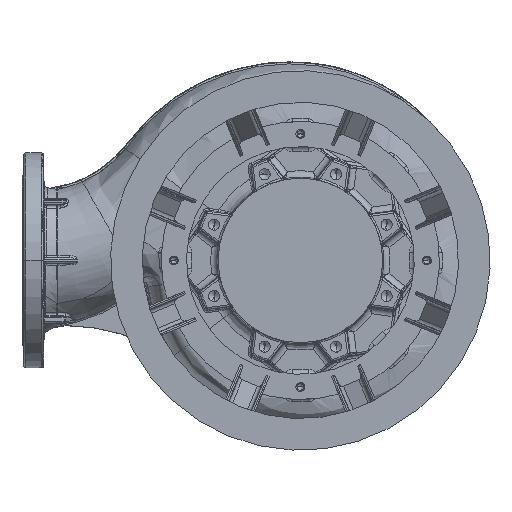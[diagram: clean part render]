
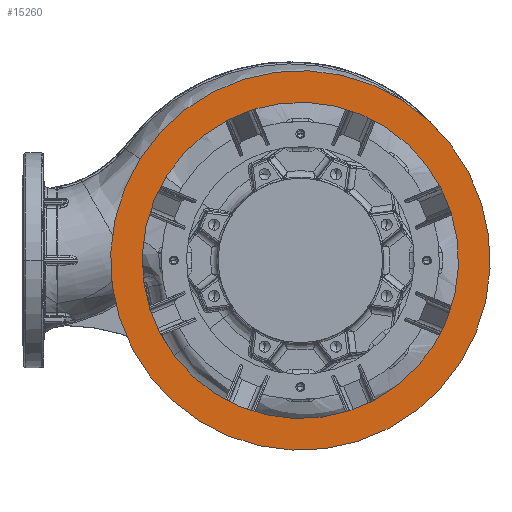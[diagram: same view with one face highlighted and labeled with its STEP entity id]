
A CAD part, front view. The second image highlights one B-rep face of the part: STEP entity #15260.
In plain terms, the highlighted planar face has unit normal (0, -1, 0).
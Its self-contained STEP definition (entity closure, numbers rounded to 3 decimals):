
#1885 = ORIENTED_EDGE ( 'NONE', *, *, #38860, .T. ) ;
#3118 = VERTEX_POINT ( 'NONE', #36371 ) ;
#10941 = DIRECTION ( 'NONE',  ( -0.924, 0., 0.383 ) ) ;
#15260 = ADVANCED_FACE ( 'NONE', ( #107772, #107215 ), #180132, .F. ) ;
#17124 = ORIENTED_EDGE ( 'NONE', *, *, #120813, .T. ) ;
#17375 = DIRECTION ( 'NONE',  ( 0., 1., 0. ) ) ;
#36371 = CARTESIAN_POINT ( 'NONE',  ( 277.164, -685.5, -114.805 ) ) ;
#37896 = DIRECTION ( 'NONE',  ( 0., 1., 0. ) ) ;
#38860 = EDGE_CURVE ( 'NONE', #138292, #72159, #45604, .T. ) ;
#39752 = CARTESIAN_POINT ( 'NONE',  ( -230.97, -685.5, 95.671 ) ) ;
#42989 = EDGE_LOOP ( 'NONE', ( #68106, #86473 ) ) ;
#45604 = CIRCLE ( 'NONE', #93379, 250. ) ;
#51314 = EDGE_CURVE ( 'NONE', #79016, #3118, #150490, .T. ) ;
#68106 = ORIENTED_EDGE ( 'NONE', *, *, #101815, .F. ) ;
#72159 = VERTEX_POINT ( 'NONE', #39752 ) ;
#72831 = DIRECTION ( 'NONE',  ( -0.924, 0., 0.383 ) ) ;
#72878 = DIRECTION ( 'NONE',  ( 0., 1., 0. ) ) ;
#73288 = CARTESIAN_POINT ( 'NONE',  ( 0., -685.5, 0. ) ) ;
#77719 = CARTESIAN_POINT ( 'NONE',  ( 0., -685.5, 0. ) ) ;
#79016 = VERTEX_POINT ( 'NONE', #101412 ) ;
#86473 = ORIENTED_EDGE ( 'NONE', *, *, #51314, .F. ) ;
#88239 = CARTESIAN_POINT ( 'NONE',  ( 230.97, -685.5, -95.671 ) ) ;
#88537 = AXIS2_PLACEMENT_3D ( 'NONE', #103904, #17375, #118229 ) ;
#92268 = DIRECTION ( 'NONE',  ( -0.924, 0., 0.383 ) ) ;
#93379 = AXIS2_PLACEMENT_3D ( 'NONE', #183365, #97636, #10941 ) ;
#97636 = DIRECTION ( 'NONE',  ( 0., 1., 0. ) ) ;
#101412 = CARTESIAN_POINT ( 'NONE',  ( -277.164, -685.5, 114.805 ) ) ;
#101815 = EDGE_CURVE ( 'NONE', #3118, #79016, #103168, .T. ) ;
#103168 = CIRCLE ( 'NONE', #134269, 300. ) ;
#103904 = CARTESIAN_POINT ( 'NONE',  ( 0., -685.5, 0. ) ) ;
#106959 = AXIS2_PLACEMENT_3D ( 'NONE', #77719, #177993, #92268 ) ;
#107215 = FACE_BOUND ( 'NONE', #114548, .T. ) ;
#107772 = FACE_OUTER_BOUND ( 'NONE', #42989, .T. ) ;
#114548 = EDGE_LOOP ( 'NONE', ( #1885, #17124 ) ) ;
#118229 = DIRECTION ( 'NONE',  ( -0.924, 0., 0.383 ) ) ;
#120813 = EDGE_CURVE ( 'NONE', #72159, #138292, #157541, .T. ) ;
#124090 = CARTESIAN_POINT ( 'NONE',  ( 0., -685.5, 0. ) ) ;
#134269 = AXIS2_PLACEMENT_3D ( 'NONE', #124090, #37896, #138490 ) ;
#138292 = VERTEX_POINT ( 'NONE', #88239 ) ;
#138490 = DIRECTION ( 'NONE',  ( -0.924, 0., 0.383 ) ) ;
#150490 = CIRCLE ( 'NONE', #88537, 300. ) ;
#157541 = CIRCLE ( 'NONE', #106959, 250. ) ;
#170206 = AXIS2_PLACEMENT_3D ( 'NONE', #73288, #72878, #72831 ) ;
#177993 = DIRECTION ( 'NONE',  ( 0., 1., 0. ) ) ;
#180132 = PLANE ( 'NONE',  #170206 ) ;
#183365 = CARTESIAN_POINT ( 'NONE',  ( 0., -685.5, 0. ) ) ;
